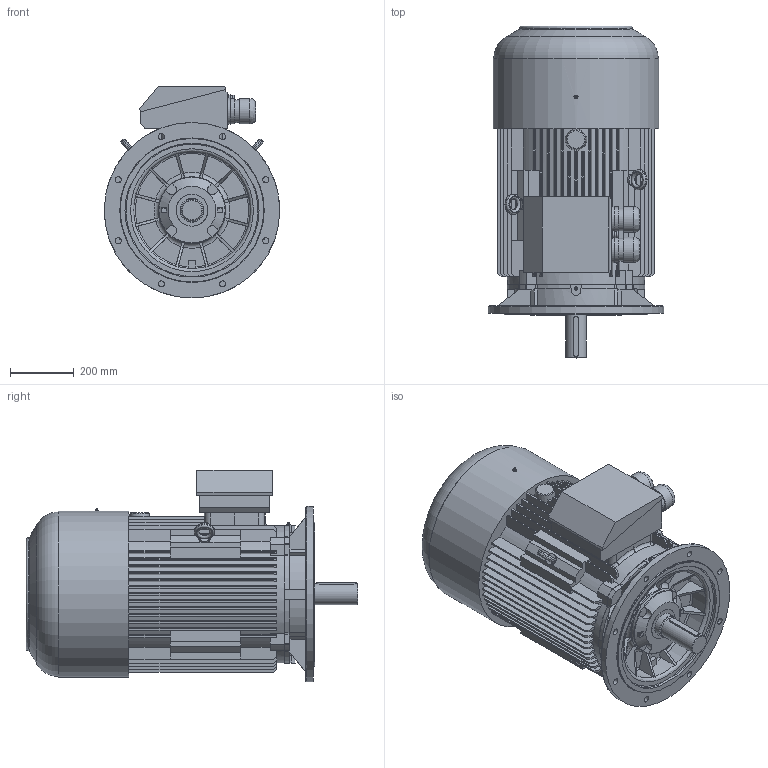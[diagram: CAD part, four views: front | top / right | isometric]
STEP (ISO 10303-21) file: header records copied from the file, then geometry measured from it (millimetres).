
FILE_DESCRIPTION( ( 'Unknown' ), '1' );
FILE_NAME( 'P:/3D_Bry³y silników skatalogowane/SIE/2SIE250/STEP/2SIEK250M4_6 silnik.stp', 'Unknown', ( 'Unknown' ), ( 'Unknown' ), 'XStep 1.0', 'Unknown', ' ' );
FILE_SCHEMA( ( 'CONFIG_CONTROL_DESIGN' ) );
Length unit declared in the file: millimetre
Products named in the file (3): 1; 2; 3
Bounding box: 550 x 1040 x 664.3 mm (x, y, z)
Volume: 161140178.7 mm3; surface area: 3707555.5 mm2
Topology: 3 solids, 6 shells, 807 faces, 2223 edges, 1462 vertices
Faces by surface type: plane 575, cylinder 160, torus 46, bspline 15, cone 11
Full cylindrical faces by diameter (mm): 1.6 x2, 5 x6, 11.083 x1, 19 x9, 21 x1, 23 x1, 27 x1, 35 x4, 40 x2, 65 x1, 71.32 x2, 74.5 x1, 78.781 x2, 80.024 x2, 81.268 x2, 100 x1, 208 x1, 210 x1, 450 x1, 520 x1, 550 x1
Entity records: 28624 total; most frequent: CARTESIAN_POINT 8250, ORIENTED_EDGE 4246, DIRECTION 4085, EDGE_CURVE 2123, VERTEX_POINT 1437, LINE 1409, VECTOR 1409, AXIS2_PLACEMENT_3D 1338
